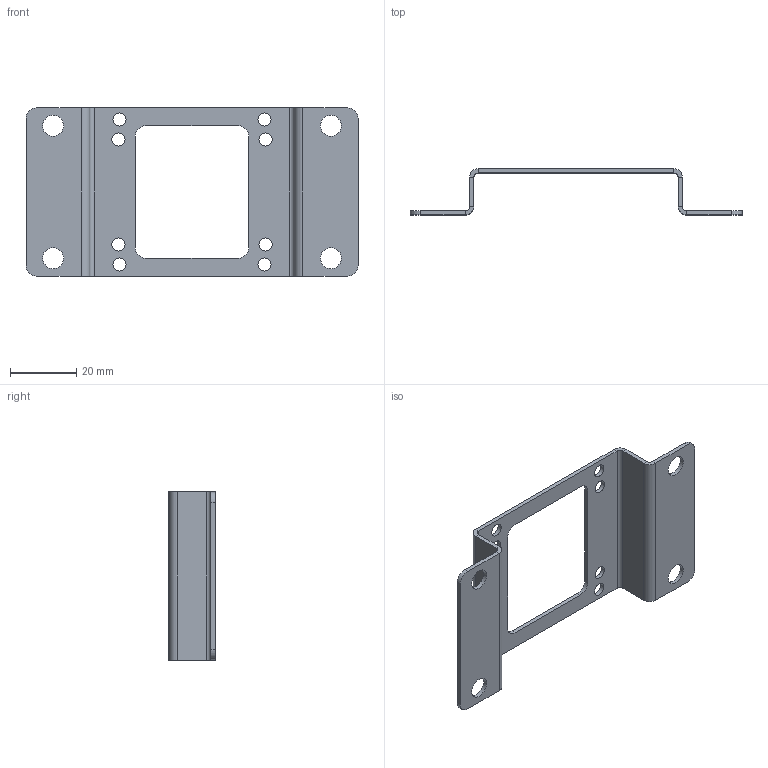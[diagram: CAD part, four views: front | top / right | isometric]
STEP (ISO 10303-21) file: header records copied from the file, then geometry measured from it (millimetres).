
FILE_DESCRIPTION(/* description */ (''),/* implementation_level */ '2;1');
FILE_NAME(/* name */ 'U:/AirCom-Produktdokumentation/Winkel/Zeichnungen/CAD-Aircom/3D/B-BKT-02.step',/* time_stamp */ '2022-02-02T09:19:04+01:00',/* author */ (''),/* organization */ (''),/* preprocessor_version */ 'ST-DEVELOPER v18.1',/* originating_system */ 'Autodesk Translation Framework v10.13.0.1454',/* authorisation */ '');
FILE_SCHEMA (('AUTOMOTIVE_DESIGN { 1 0 10303 214 3 1 1 }'));
Length unit declared in the file: inch
Products named in the file (1): QBT02-A
Bounding box: 100.33 x 13.97 x 50.8 mm (x, y, z)
Volume: 5871.9 mm3; surface area: 10090 mm2
Topology: 1 solids, 1 shells, 62 faces, 148 edges, 88 vertices
Faces by surface type: plane 34, cylinder 28
Full cylindrical faces by diameter (mm): 3.969 x8, 6.35 x4
Entity records: 1866 total; most frequent: DIRECTION 330, CARTESIAN_POINT 299, ORIENTED_EDGE 296, EDGE_CURVE 148, AXIS2_PLACEMENT_3D 119, LINE 92, VECTOR 92, EDGE_LOOP 88
